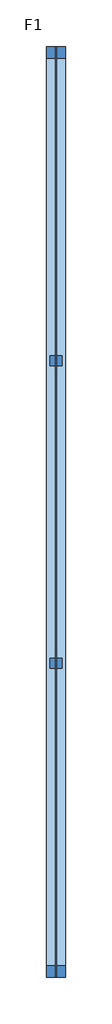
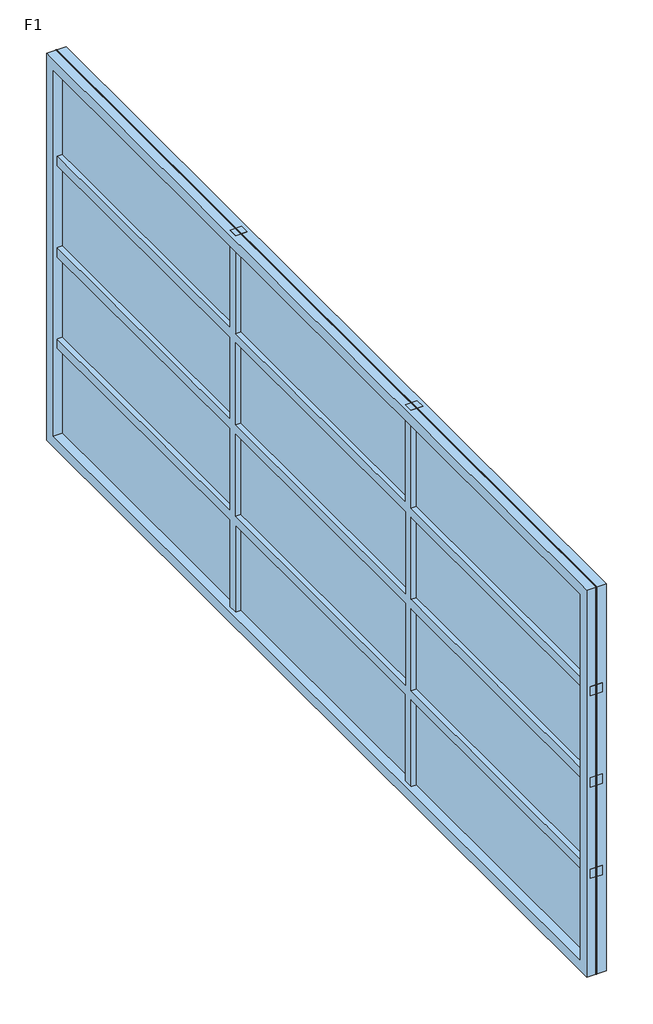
# One storey: 1 window.
"""IFC4 building model written with IfcOpenShell, lengths in millimetres."""

from ifc_helpers import new_model, si_unit, origin, place, context, project, spatial, transform, mapped, element, save
from components import c3_c3_75805492

model = new_model("IFC4")

# Units and contexts
model_context = context("Model", 3, world=origin())
ifc_project = project(units=[si_unit("LENGTHUNIT", "METRE", prefix="MILLI")], contexts=[model_context])

# Site, building, storey
site = spatial("IfcSite", under=ifc_project)
building = spatial("IfcBuilding", under=site)
storey = spatial("IfcBuildingStorey", under=building, Name="F1", Elevation=0.0)

# Window
placement = place(None, origin())
c3_c3_shape = c3_c3_75805492(model_context)
element("IfcWindow", 1, ObjectType="C3 : C3", at=placement, inside=storey, context=model_context, shape_type="MappedRepresentation", body=[
    mapped(c3_c3_shape, transform((19428.2029165, -20979.0484842, -100.0), x_axis=(0.0, 1.0, 0.0), y_axis=(-1.0, 0.0, 0.0), z_axis=(0.0, 0.0, 1.0))),
])

save(model, "model.ifc")
